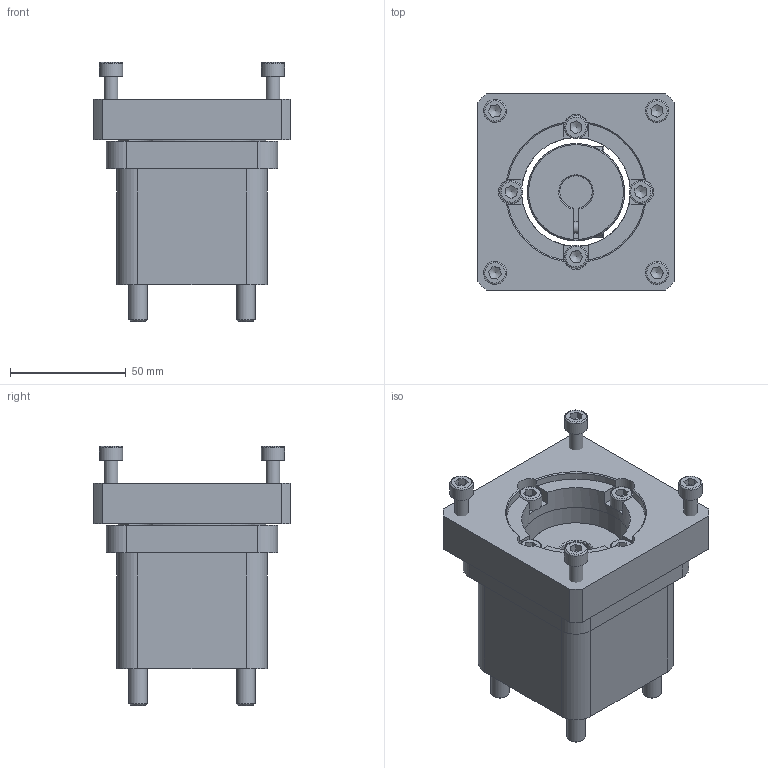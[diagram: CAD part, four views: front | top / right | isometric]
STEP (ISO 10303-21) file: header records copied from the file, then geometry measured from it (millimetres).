
FILE_DESCRIPTION(/* description */ ('EAMK-A O-Coupling housing'),/* implementation_level */ '2;1');
FILE_NAME(/* name */ 'C:\STORE\ホームページ用データ\\X2\30E230FC30BF53D64ED830AD30C330C8\X0\_2016_追加\3D_STEP\J09599.stp',/* time_stamp */ '2016-03-08T09:34:36+09:00',/* author */ ('jp4te01'),/* organization */ ('FESTO'),/* preprocessor_version */ 'ST-DEVELOPER v15.6',/* originating_system */ 'Autodesk Inventor 2015',/* authorisation */ '');
FILE_SCHEMA (('AUTOMOTIVE_DESIGN { 1 0 10303 214 3 1 1 }'));
Length unit declared in the file: millimetre
Products named in the file (8): 2836865 EAMK-A-D50-64C---(1O); DIN-912 - M8x65(F); 2836865 EAMK-A-D50-64C; 1455671_EAMC_42_50_12_14; J09667; コピー版 JIS B 1176 - M6 x 15; コピー版 JIS B 1176 - M6 x 25; J09599
Bounding box: 85 x 85 x 112 mm (x, y, z)
Volume: 310285 mm3; surface area: 91162.8 mm2
Topology: 15 solids, 15 shells, 406 faces, 945 edges, 597 vertices
Faces by surface type: plane 206, cone 93, cylinder 89, torus 18
Full cylindrical faces by diameter (mm): 4.917 x8, 5 x4, 6 x8, 6.6 x4, 8 x4, 8.4 x4, 8.5 x2, 10 x8, 13 x4, 15 x4, 40 x2, 42 x1, 47 x1, 48 x1, 50 x1, 64 x1
Entity records: 6791 total; most frequent: CARTESIAN_POINT 1355, DIRECTION 1146, ORIENTED_EDGE 972, EDGE_CURVE 486, AXIS2_PLACEMENT_3D 468, VERTEX_POINT 349, EDGE_LOOP 347, FACE_OUTER_BOUND 232
